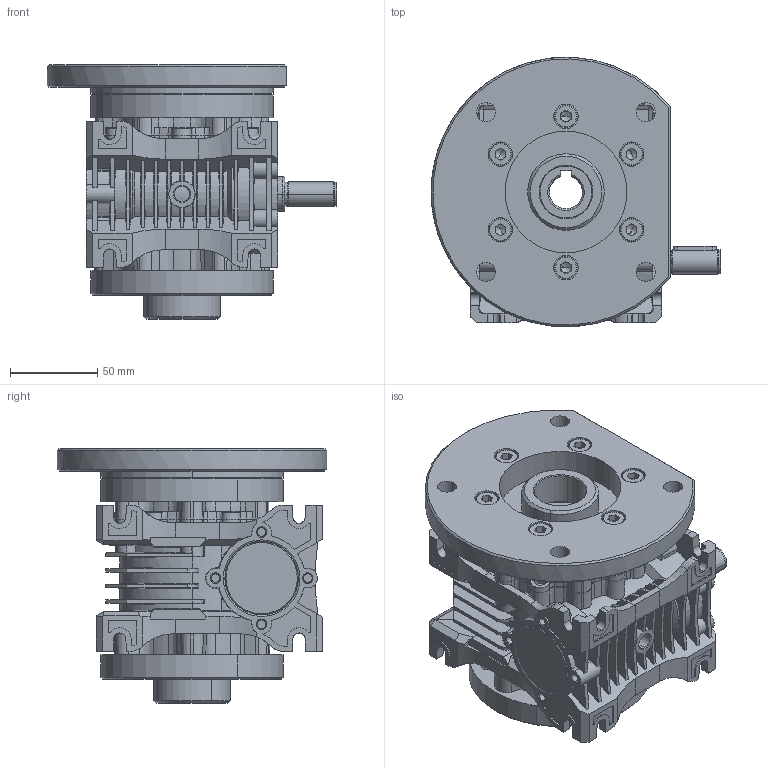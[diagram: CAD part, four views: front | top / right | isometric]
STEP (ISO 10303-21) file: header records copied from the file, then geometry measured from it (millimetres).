
FILE_DESCRIPTION (( 'STEP AP203' ), '1' );
FILE_NAME ('MRP-40_WBS_SO-2_KM-2_3D.STEP', '2024-10-23T07:03:49', ( '' ), ( '' ), 'SwSTEP 2.0', 'SolidWorks 2022', '' );
FILE_SCHEMA (( 'CONFIG_CONTROL_DESIGN' ));
Length unit declared in the file: millimetre
Products named in the file (1): MRP-40_WBS_SO-2_KM-2_3D
Bounding box: 166.5 x 154.89 x 146.5 mm (x, y, z)
Volume: 1119395.4 mm3; surface area: 243442.1 mm2
Topology: 1 solids, 58 shells, 2530 faces, 6576 edges, 4212 vertices
Faces by surface type: plane 1066, cone 785, cylinder 499, torus 108, bspline 72
Entity records: 81097 total; most frequent: CARTESIAN_POINT 19995, ORIENTED_EDGE 13036, DIRECTION 12685, EDGE_CURVE 6518, AXIS2_PLACEMENT_3D 4741, VERTEX_POINT 4212, VECTOR 3203, LINE 3203
